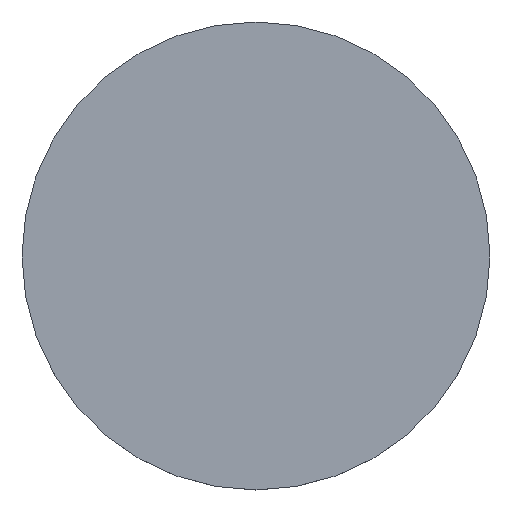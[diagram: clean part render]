
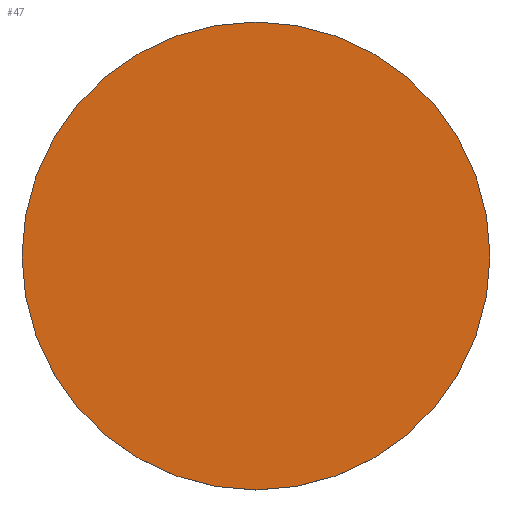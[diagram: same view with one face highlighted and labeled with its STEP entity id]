
A CAD part, top view. The second image highlights one B-rep face of the part: STEP entity #47.
In plain terms, the highlighted planar face has unit normal (0, 0, 1).
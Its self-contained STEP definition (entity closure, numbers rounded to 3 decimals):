
#47=ADVANCED_FACE('',(#51),#49,.T.);
#49=PLANE('',#71);
#51=FACE_OUTER_BOUND('',#55,.T.);
#55=EDGE_LOOP('',(#59));
#59=ORIENTED_EDGE('',*,*,#63,.T.);
#61=VERTEX_POINT('',#89);
#63=EDGE_CURVE('',#61,#61,#65,.T.);
#65=CIRCLE('',#69,22.);
#69=AXIS2_PLACEMENT_3D('',#88,#78,#79);
#71=AXIS2_PLACEMENT_3D('',#91,#82,#83);
#78=DIRECTION('',(0.,0.,1.));
#79=DIRECTION('',(1.,0.,0.));
#82=DIRECTION('',(0.,0.,1.));
#83=DIRECTION('',(1.,0.,0.));
#88=CARTESIAN_POINT('',(0.,0.,2.));
#89=CARTESIAN_POINT('',(22.,0.,2.));
#91=CARTESIAN_POINT('',(0.,0.,2.));
